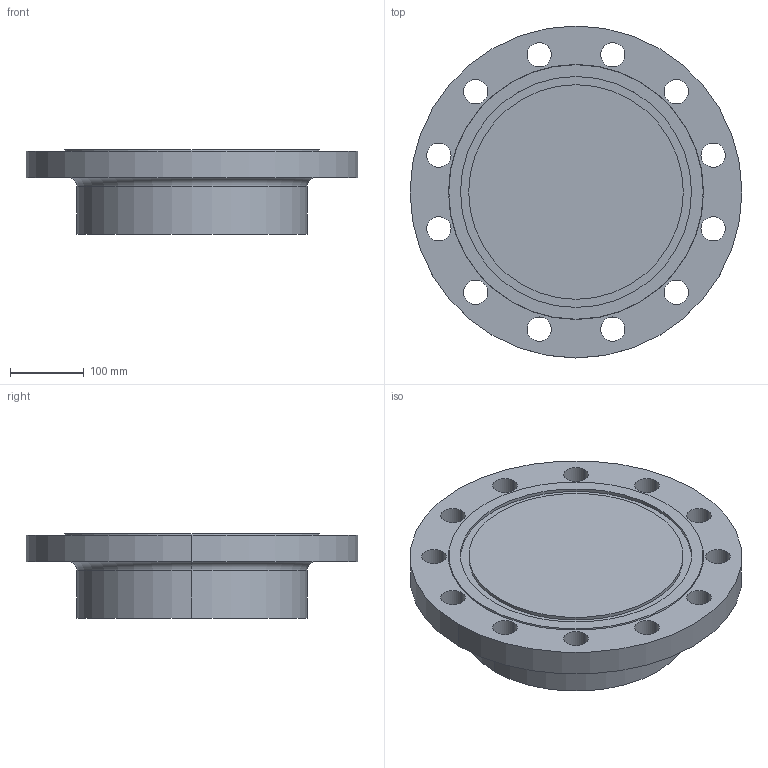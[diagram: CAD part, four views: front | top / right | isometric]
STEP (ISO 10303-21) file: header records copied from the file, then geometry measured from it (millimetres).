
FILE_DESCRIPTION (( 'STEP AP214' ), '1' );
FILE_NAME ('PN40 DN250 Type 21(i) - Type D Face.STEP', '2019-01-05T15:54:52', ( '' ), ( '' ), 'SwSTEP 2.0', 'SolidWorks 2019', '' );
FILE_SCHEMA (( 'AUTOMOTIVE_DESIGN' ));
Length unit declared in the file: millimetre
Products named in the file (1): PN40 DN250 Type 21(i) - Type D Face
Bounding box: 450 x 450 x 115 mm (x, y, z)
Volume: 11414199.5 mm3; surface area: 474088.4 mm2
Topology: 1 solids, 1 shells, 42 faces, 106 edges, 70 vertices
Faces by surface type: cylinder 32, plane 6, torus 2, cone 2
Entity records: 1388 total; most frequent: DIRECTION 264, CARTESIAN_POINT 219, ORIENTED_EDGE 212, AXIS2_PLACEMENT_3D 115, EDGE_CURVE 106, CIRCLE 72, VERTEX_POINT 70, EDGE_LOOP 70
